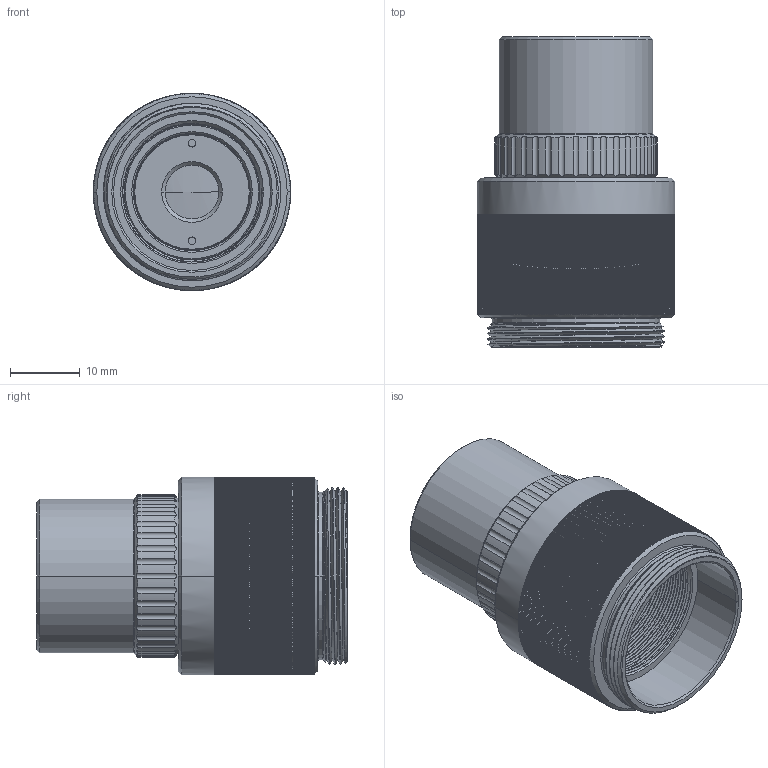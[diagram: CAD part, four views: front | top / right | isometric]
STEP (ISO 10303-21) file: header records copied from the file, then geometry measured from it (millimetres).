
FILE_DESCRIPTION((''),'2;1');
FILE_NAME('TMN_0-3_110','2019-02-12T',('kevin.wileman'),(''),'CREO PARAMETRIC BY PTC INC, 2015480','CREO PARAMETRIC BY PTC INC, 2015480','');
FILE_SCHEMA(('AUTOMOTIVE_DESIGN { 1 0 10303 214 1 1 1 1 }'));
Products named in the file (1): TMN_0-3_110
Bounding box: 28.3 x 44.5 x 28.3 mm (x, y, z)
Volume: 13005.6 mm3; surface area: 11667 mm2
Topology: 1 solids, 1 shells, 1680 faces, 4909 edges, 3247 vertices
Faces by surface type: plane 1344, cylinder 204, bspline 72, cone 50, torus 6, sphere 4
Entity records: 90336 total; most frequent: CARTESIAN_POINT 47000, ORIENTED_EDGE 9810, DIRECTION 7627, EDGE_CURVE 4905, VERTEX_POINT 3247, VECTOR 2611, LINE 2611, AXIS2_PLACEMENT_3D 2508
